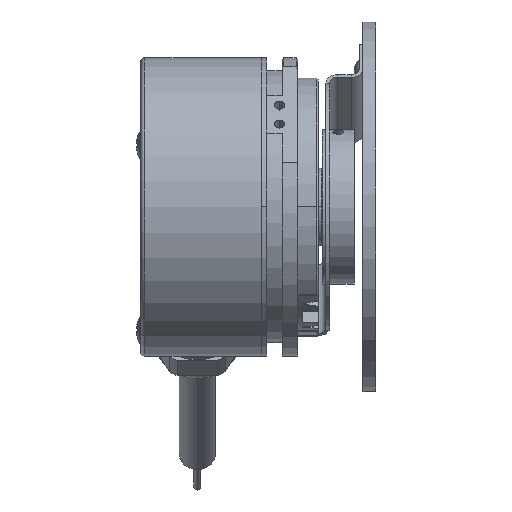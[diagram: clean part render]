
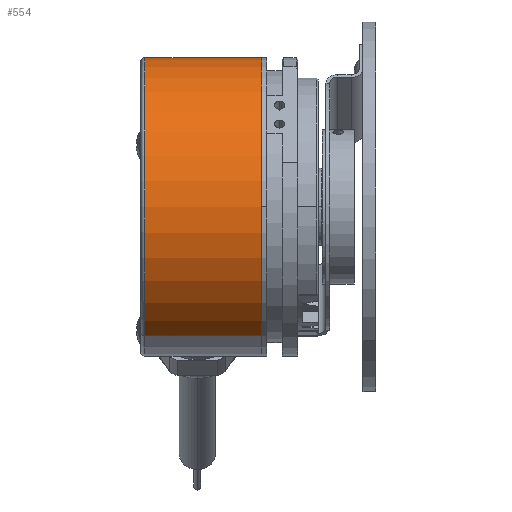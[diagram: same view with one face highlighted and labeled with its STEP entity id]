
A CAD part, top view. The second image highlights one B-rep face of the part: STEP entity #554.
In plain terms, the highlighted cylindrical face has radius 29 mm (diameter 58 mm), a partial arc.
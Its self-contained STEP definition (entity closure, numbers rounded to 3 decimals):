
#316 = EDGE_CURVE ( 'NONE', #6707, #6708, #10665, .T. ) ;
#335 = EDGE_CURVE ( 'NONE', #6715, #6720, #10688, .T. ) ;
#336 = EDGE_CURVE ( 'NONE', #6720, #6707, #10690, .T. ) ;
#337 = EDGE_CURVE ( 'NONE', #6715, #6708, #10691, .T. ) ;
#554 = ADVANCED_FACE ( 'NONE', ( #11958 ), #11962, .T. ) ;
#1168 = ORIENTED_EDGE ( 'NONE', *, *, #335, .T. ) ;
#1169 = ORIENTED_EDGE ( 'NONE', *, *, #336, .T. ) ;
#1170 = ORIENTED_EDGE ( 'NONE', *, *, #316, .T. ) ;
#1171 = ORIENTED_EDGE ( 'NONE', *, *, #337, .F. ) ;
#2866 = CARTESIAN_POINT ( 'NONE',  ( -3.2, 25.115, -14.5 ) ) ;
#2867 = CARTESIAN_POINT ( 'NONE',  ( -3.2, -25.115, 14.5 ) ) ;
#2874 = CARTESIAN_POINT ( 'NONE',  ( 19.5, -25.115, 14.5 ) ) ;
#2879 = CARTESIAN_POINT ( 'NONE',  ( 19.5, 25.115, -14.5 ) ) ;
#6707 = VERTEX_POINT ( 'NONE', #2866 ) ;
#6708 = VERTEX_POINT ( 'NONE', #2867 ) ;
#6715 = VERTEX_POINT ( 'NONE', #2874 ) ;
#6720 = VERTEX_POINT ( 'NONE', #2879 ) ;
#7237 = AXIS2_PLACEMENT_3D ( 'NONE', #11492, #11493, #11494 ) ;
#7244 = AXIS2_PLACEMENT_3D ( 'NONE', #11464, #11590, #11591 ) ;
#7325 = AXIS2_PLACEMENT_3D ( 'NONE', #12521, #12519, #12516 ) ;
#10665 = CIRCLE ( 'NONE', #7237, 29. ) ;
#10688 = CIRCLE ( 'NONE', #7244, 29. ) ;
#10690 = LINE ( 'NONE', #11585, #10692 ) ;
#10691 = LINE ( 'NONE', #11592, #10694 ) ;
#10692 = VECTOR ( 'NONE', #11586, 1000. ) ;
#10694 = VECTOR ( 'NONE', #11593, 1000. ) ;
#11464 = CARTESIAN_POINT ( 'NONE',  ( 19.5, 0., 0. ) ) ;
#11492 = CARTESIAN_POINT ( 'NONE',  ( -3.2, 0., 0. ) ) ;
#11493 = DIRECTION ( 'NONE',  ( 1., 0., 0. ) ) ;
#11494 = DIRECTION ( 'NONE',  ( 0., 0.866, -0.5 ) ) ;
#11585 = CARTESIAN_POINT ( 'NONE',  ( -4., 25.115, -14.5 ) ) ;
#11586 = DIRECTION ( 'NONE',  ( -1., 0., 0. ) ) ;
#11590 = DIRECTION ( 'NONE',  ( -1., 0., 0. ) ) ;
#11591 = DIRECTION ( 'NONE',  ( 0., -0.866, 0.5 ) ) ;
#11592 = CARTESIAN_POINT ( 'NONE',  ( -4., -25.115, 14.5 ) ) ;
#11593 = DIRECTION ( 'NONE',  ( -1., 0., 0. ) ) ;
#11958 = FACE_OUTER_BOUND ( 'NONE', #19182, .T. ) ;
#11962 = CYLINDRICAL_SURFACE ( 'NONE', #7325, 29. ) ;
#12516 = DIRECTION ( 'NONE',  ( 0., -0.866, 0.5 ) ) ;
#12519 = DIRECTION ( 'NONE',  ( -1., 0., 0. ) ) ;
#12521 = CARTESIAN_POINT ( 'NONE',  ( -4., 0., 0. ) ) ;
#19182 = EDGE_LOOP ( 'NONE', ( #1168, #1169, #1170, #1171 ) ) ;
